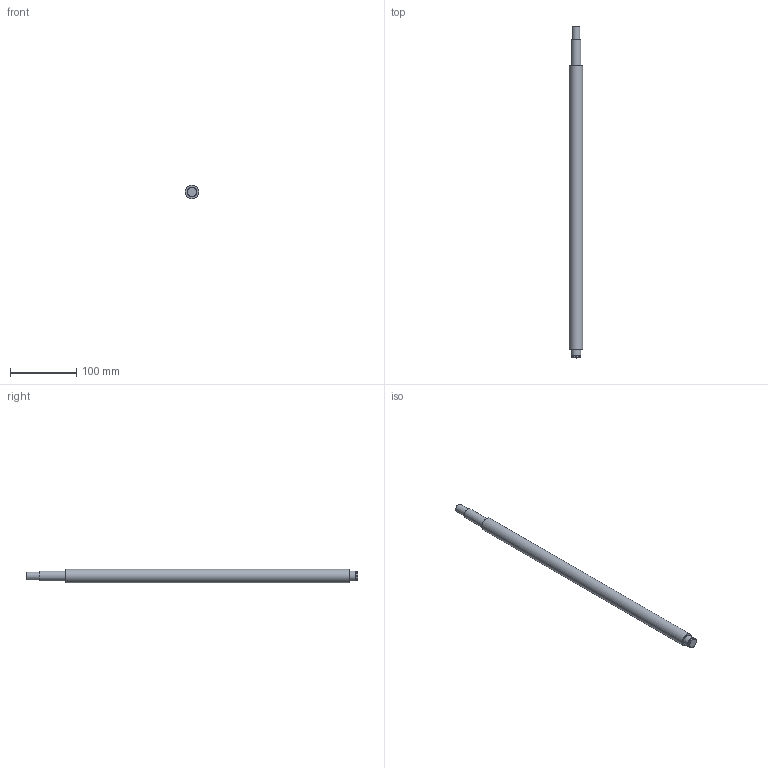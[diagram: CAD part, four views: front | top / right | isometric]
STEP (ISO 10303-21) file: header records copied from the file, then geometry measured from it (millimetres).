
FILE_DESCRIPTION(/* description */ (''),/* implementation_level */ '2;1');
FILE_NAME(/* name */ 'C:\Users\David\Desktop\stepFiles\Profilfuehrung\KUS2005x500.stp',/* time_stamp */ '2018-06-24T15:12:08+02:00',/* author */ ('David'),/* organization */ (''),/* preprocessor_version */ 'ST-DEVELOPER v17',/* originating_system */ 'Autodesk Inventor 2019',/* authorisation */ '');
FILE_SCHEMA (('AUTOMOTIVE_DESIGN { 1 0 10303 214 3 1 1 }'));
Length unit declared in the file: millimetre
Products named in the file (1): SFU2005xvaiabel
Bounding box: 20 x 500 x 20 mm (x, y, z)
Volume: 145745 mm3; surface area: 30713.3 mm2
Topology: 1 solids, 1 shells, 15 faces, 34 edges, 26 vertices
Faces by surface type: plane 7, cylinder 6, cone 2
Full cylindrical faces by diameter (mm): 12 x1, 14.3 x1, 15 x3, 20 x1
Entity records: 493 total; most frequent: DIRECTION 92, CARTESIAN_POINT 76, ORIENTED_EDGE 68, AXIS2_PLACEMENT_3D 42, EDGE_CURVE 34, CIRCLE 26, VERTEX_POINT 26, EDGE_LOOP 20
